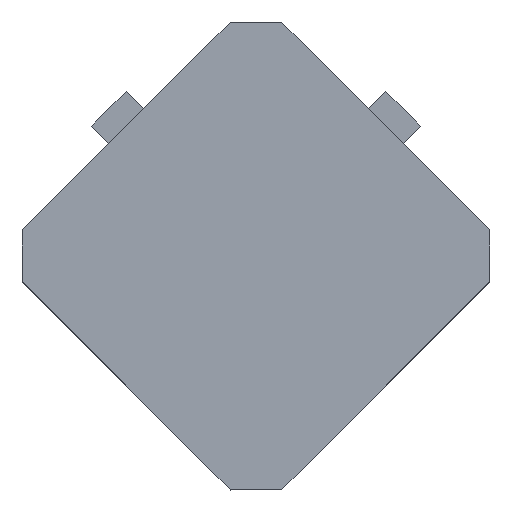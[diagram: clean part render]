
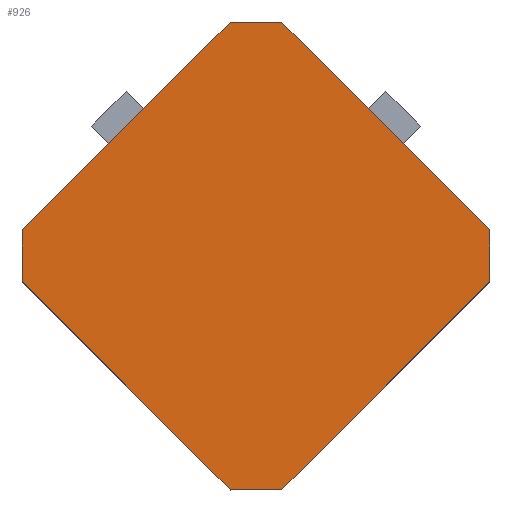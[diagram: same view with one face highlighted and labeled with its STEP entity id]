
A CAD part, top view. The second image highlights one B-rep face of the part: STEP entity #926.
In plain terms, the highlighted planar face has unit normal (0, 0, 1).
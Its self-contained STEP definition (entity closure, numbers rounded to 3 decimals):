
#15 = LINE ( 'NONE', #327, #475 ) ;
#38 = ORIENTED_EDGE ( 'NONE', *, *, #699, .T. ) ;
#39 = EDGE_CURVE ( 'NONE', #78, #280, #457, .T. ) ;
#76 = CARTESIAN_POINT ( 'NONE',  ( 9.046, -0.207, 15. ) ) ;
#78 = VERTEX_POINT ( 'NONE', #845 ) ;
#120 = VERTEX_POINT ( 'NONE', #624 ) ;
#126 = EDGE_CURVE ( 'NONE', #280, #662, #171, .T. ) ;
#142 = VECTOR ( 'NONE', #872, 1000. ) ;
#154 = ORIENTED_EDGE ( 'NONE', *, *, #126, .T. ) ;
#158 = DIRECTION ( 'NONE',  ( -1., 0., 0. ) ) ;
#171 = LINE ( 'NONE', #469, #369 ) ;
#183 = VECTOR ( 'NONE', #772, 1000. ) ;
#206 = ORIENTED_EDGE ( 'NONE', *, *, #39, .T. ) ;
#224 = ORIENTED_EDGE ( 'NONE', *, *, #754, .T. ) ;
#234 = EDGE_CURVE ( 'NONE', #885, #497, #1016, .T. ) ;
#244 = EDGE_CURVE ( 'NONE', #662, #120, #781, .T. ) ;
#251 = CARTESIAN_POINT ( 'NONE',  ( 0.561, 9.339, 15. ) ) ;
#261 = VECTOR ( 'NONE', #158, 1000. ) ;
#266 = DIRECTION ( 'NONE',  ( 0., -1., 0. ) ) ;
#280 = VERTEX_POINT ( 'NONE', #412 ) ;
#295 = PLANE ( 'NONE',  #930 ) ;
#300 = CARTESIAN_POINT ( 'NONE',  ( -0.5, -0.207, 15. ) ) ;
#327 = CARTESIAN_POINT ( 'NONE',  ( -0.5, -10.814, 15. ) ) ;
#358 = VECTOR ( 'NONE', #266, 1000. ) ;
#369 = VECTOR ( 'NONE', #945, 1000. ) ;
#370 = VECTOR ( 'NONE', #737, 1000. ) ;
#378 = CARTESIAN_POINT ( 'NONE',  ( 9.046, -1.268, 15. ) ) ;
#397 = DIRECTION ( 'NONE',  ( 0.707, -0.707, 0. ) ) ;
#407 = ORIENTED_EDGE ( 'NONE', *, *, #553, .T. ) ;
#412 = CARTESIAN_POINT ( 'NONE',  ( 0.561, -9.753, 15. ) ) ;
#457 = LINE ( 'NONE', #849, #1012 ) ;
#464 = FACE_OUTER_BOUND ( 'NONE', #502, .T. ) ;
#465 = CARTESIAN_POINT ( 'NONE',  ( -0.5, 9.339, 15. ) ) ;
#469 = CARTESIAN_POINT ( 'NONE',  ( -0.5, -10.814, 15. ) ) ;
#475 = VECTOR ( 'NONE', #865, 1000. ) ;
#484 = CARTESIAN_POINT ( 'NONE',  ( -10.046, -1.268, 15. ) ) ;
#497 = VERTEX_POINT ( 'NONE', #979 ) ;
#498 = LINE ( 'NONE', #512, #358 ) ;
#502 = EDGE_LOOP ( 'NONE', ( #154, #544, #407, #904, #38, #224, #508, #206 ) ) ;
#508 = ORIENTED_EDGE ( 'NONE', *, *, #790, .T. ) ;
#512 = CARTESIAN_POINT ( 'NONE',  ( -10.046, -0.207, 15. ) ) ;
#544 = ORIENTED_EDGE ( 'NONE', *, *, #244, .T. ) ;
#553 = EDGE_CURVE ( 'NONE', #120, #885, #771, .T. ) ;
#585 = CARTESIAN_POINT ( 'NONE',  ( -10.046, 0.854, 15. ) ) ;
#614 = DIRECTION ( 'NONE',  ( 0., 0., 1. ) ) ;
#624 = CARTESIAN_POINT ( 'NONE',  ( 9.046, 0.854, 15. ) ) ;
#662 = VERTEX_POINT ( 'NONE', #378 ) ;
#699 = EDGE_CURVE ( 'NONE', #497, #889, #877, .T. ) ;
#702 = CARTESIAN_POINT ( 'NONE',  ( 10.107, -0.207, 15. ) ) ;
#737 = DIRECTION ( 'NONE',  ( -0.707, -0.707, 0. ) ) ;
#754 = EDGE_CURVE ( 'NONE', #889, #1000, #498, .T. ) ;
#768 = DIRECTION ( 'NONE',  ( 1., 0., 0. ) ) ;
#771 = LINE ( 'NONE', #702, #142 ) ;
#772 = DIRECTION ( 'NONE',  ( 0., 1., 0. ) ) ;
#781 = LINE ( 'NONE', #76, #183 ) ;
#790 = EDGE_CURVE ( 'NONE', #1000, #78, #15, .T. ) ;
#826 = CARTESIAN_POINT ( 'NONE',  ( -11.107, -0.207, 15. ) ) ;
#845 = CARTESIAN_POINT ( 'NONE',  ( -1.561, -9.753, 15. ) ) ;
#849 = CARTESIAN_POINT ( 'NONE',  ( -0.5, -9.753, 15. ) ) ;
#865 = DIRECTION ( 'NONE',  ( 0.707, -0.707, 0. ) ) ;
#872 = DIRECTION ( 'NONE',  ( -0.707, 0.707, 0. ) ) ;
#877 = LINE ( 'NONE', #826, #370 ) ;
#885 = VERTEX_POINT ( 'NONE', #251 ) ;
#889 = VERTEX_POINT ( 'NONE', #585 ) ;
#904 = ORIENTED_EDGE ( 'NONE', *, *, #234, .T. ) ;
#926 = ADVANCED_FACE ( 'NONE', ( #464 ), #295, .T. ) ;
#930 = AXIS2_PLACEMENT_3D ( 'NONE', #300, #614, #397 ) ;
#945 = DIRECTION ( 'NONE',  ( 0.707, 0.707, 0. ) ) ;
#979 = CARTESIAN_POINT ( 'NONE',  ( -1.561, 9.339, 15. ) ) ;
#1000 = VERTEX_POINT ( 'NONE', #484 ) ;
#1012 = VECTOR ( 'NONE', #768, 1000. ) ;
#1016 = LINE ( 'NONE', #465, #261 ) ;
